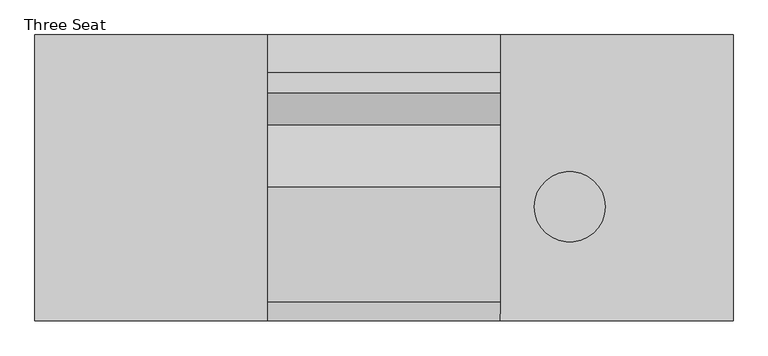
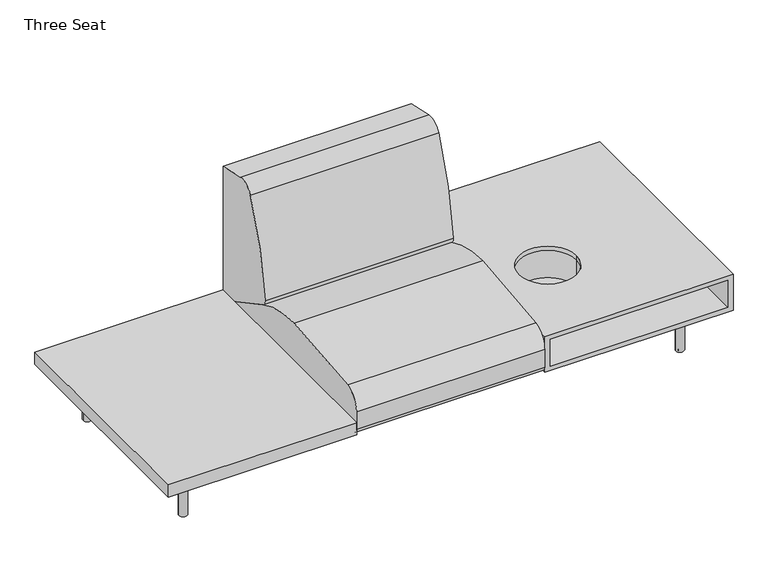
"""IFC4 building model written with IfcOpenShell, lengths in millimetres: furniture geometry, Coalesse_AM_Seating_LoungeChair_Sistema_LegBase_ThreeSeat : Three Seat."""

from ifc_helpers import new_model, si_unit, point, frame, frame_2d, origin, origin_with_axes, place, context, project, spatial, polyline, circle_curve, trimmed, segment, composite_curve, outline, extrude, source, transform, mapped, element, save
from ifc_brep_helpers import plane_surface, cylinder_surface, revolved_surface, advanced_brep


def three_seat_e902c8a6(model_context):
    return source(origin(), model_context, "Body", "SolidModel", [
        extrude(outline(polyline([(374.4965227, 459.4795619), (374.4965227, -461.2704381), (-374.8034773, -461.2704381), (-374.8034773, 459.4795619), (374.4965227, 459.4795619)])), frame((0.0, 0.0, 204.47), z_axis=(0.0, 0.0, 1.0), x_axis=(1.0, 0.0, 0.0)), (0.0, 0.0, 1.0), 51.0294654),
        extrude(outline(composite_curve([segment(polyline([(459.4795619, 775.8234697), (459.4795619, 228.1929806)]), True, "CONTINUOUS"), segment(trimmed(circle_curve(frame_2d((191.495971, 228.1929806)), 267.983591), [point((459.4795619, 228.1929806))], [point((458.9860775, 211.937276))], False, "CARTESIAN"), True, "CONTINUOUS"), segment(polyline([(458.9860775, 211.937276), (183.8457951, 360.6719742)]), True, "CONTINUOUS"), segment(trimmed(circle_curve(frame_2d((195.9245701, 383.0161724)), 25.4), [point((183.8457951, 360.6719742))], [point((170.6161698, 385.1713698))], False, "CARTESIAN"), True, "CONTINUOUS"), segment(trimmed(circle_curve(frame_2d((1327.5544182, 286.6495247)), 1161.1256023), [point((170.6161698, 385.1713698))], [point((271.1088001, 768.4537592))], False, "CARTESIAN"), True, "CONTINUOUS"), segment(trimmed(circle_curve(frame_2d((326.5730192, 743.158661)), 60.96), [point((271.1088001, 768.4537592))], [point((339.9143278, 802.6408523))], False, "CARTESIAN"), True, "CONTINUOUS"), segment(polyline([(339.9143278, 802.6408523), (459.4795619, 775.8234697)]), True, "CONTINUOUS")], self_intersect=False)), frame((374.4965227, 0.0, 0.0), z_axis=(1.0, 0.0, 0.0), x_axis=(0.0, 1.0, 0.0)), (0.0, 0.0, 1.0), 749.3),
        extrude(outline(composite_curve([segment(trimmed(circle_curve(frame_2d((-438.9184381, 226.822)), 22.352), [point((-438.9184381, 204.47))], [point((-461.2704381, 226.822))], False, "CARTESIAN"), True, "CONTINUOUS"), segment(polyline([(-461.2704381, 226.822), (-461.2704381, 301.4421993)]), True, "CONTINUOUS"), segment(trimmed(circle_curve(frame_2d((-385.0704381, 301.4421993)), 76.2), [point((-461.2704381, 301.4421993))], [point((-398.9277015, 376.3716077))], False, "CARTESIAN"), True, "CONTINUOUS"), segment(trimmed(circle_curve(frame_2d((2.2103559, -1792.6740646)), 2205.8265729), [point((-398.9277015, 376.3716077))], [point((-31.1968175, 412.8995185))], False, "CARTESIAN"), True, "CONTINUOUS"), segment(trimmed(circle_curve(frame_2d((-24.5128424, -28.3829182)), 441.333054), [point((-31.1968175, 412.8995185))], [point((184.5757008, 360.2774035))], False, "CARTESIAN"), True, "CONTINUOUS"), segment(polyline([(184.5757008, 360.2774035), (458.9860775, 211.937276)]), True, "CONTINUOUS"), segment(trimmed(circle_curve(frame_2d((442.3266309, 226.7871991)), 22.3171991), [point((458.9860775, 211.937276))], [point((442.3266309, 204.47))], False, "CARTESIAN"), True, "CONTINUOUS"), segment(polyline([(442.3266309, 204.47), (-438.9184381, 204.47)]), True, "CONTINUOUS")], self_intersect=False)), frame((374.4965227, 0.0, 0.0), z_axis=(1.0, 0.0, 0.0), x_axis=(0.0, 1.0, 0.0)), (0.0, 0.0, 1.0), 749.3),
        advanced_brep(
        [(1475.1391799, -93.7879891, 336.5210652), (1219.2892458, -93.7879891, 336.5210652), (1219.2892458, -93.7879891, 212.4123377), (1475.1391799, -93.7879891, 212.4123377), (1460.8952223, -93.7879891, 336.5210652), (1233.5332034, -93.7879891, 336.5210652), (1233.5332034, -93.7879891, 223.173587), (1233.5332034, -93.7879891, 212.4123377), (1460.8952223, -93.7879891, 212.4123377), (1460.8952223, -93.7879891, 223.173587)],
        [
            (0, 1, circle_curve(frame((1347.2142128, -93.7879891, 336.5210652), z_axis=(0.0, 0.0, -1.0), x_axis=(1.0, 0.0, 0.0)), 127.924967)),
            (1, 2),
            (2, 3, circle_curve(frame((1347.2142128, -93.7879891, 212.4123377), z_axis=(0.0, 0.0, 1.0), x_axis=(1.0, 0.0, 0.0)), 127.924967)),
            (3, 0),
            (1, 0, circle_curve(frame((1347.2142128, -93.7879891, 336.5210652), z_axis=(0.0, 0.0, -1.0), x_axis=(1.0, 0.0, 0.0)), 127.924967)),
            (3, 2, circle_curve(frame((1347.2142128, -93.7879891, 212.4123377), z_axis=(0.0, 0.0, 1.0), x_axis=(1.0, 0.0, 0.0)), 127.924967)),
            (4, 5, circle_curve(frame((1347.2142128, -93.7879891, 336.5210652), z_axis=(0.0, 0.0, 1.0), x_axis=(1.0, 0.0, 0.0)), 113.6810095)),
            (5, 6),
            (6, 7),
            (7, 8, circle_curve(frame((1347.2142128, -93.7879891, 212.4123377), z_axis=(0.0, 0.0, -1.0), x_axis=(1.0, 0.0, 0.0)), 113.6810095)),
            (8, 9),
            (9, 4),
            (5, 4, circle_curve(frame((1347.2142128, -93.7879891, 336.5210652), z_axis=(0.0, 0.0, 1.0), x_axis=(1.0, 0.0, 0.0)), 113.6810095)),
            (8, 7, circle_curve(frame((1347.2142128, -93.7879891, 212.4123377), z_axis=(0.0, 0.0, -1.0), x_axis=(1.0, 0.0, 0.0)), 113.6810095)),
        ],
        [
            cylinder_surface(frame((1347.2142128, -93.7879891, 0.0), z_axis=(0.0, 0.0, 1.0), x_axis=(1.0, 0.0, 0.0)), 127.924967),
            revolved_surface(polyline([(1460.8952223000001, -93.7879891, 212.4123377), (1460.8952223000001, -93.7879891, 336.5210652)]), (1347.2142128, -93.7879891, 212.4123377), (0.0, 0.0, -1.0)),
            plane_surface(frame((1460.8952223, -93.7879891, 212.4123377), z_axis=(0.0, 0.0, -1.0), x_axis=(0.0, 1.0, 0.0))),
            plane_surface(frame((1460.8952223, -93.7879891, 336.5210652), z_axis=(0.0, 0.0, 1.0), x_axis=(0.0, -1.0, 0.0))),
        ],
        [
            (0, [[1, 2, 3, 4]]),
            (0, [[5, -4, 6, -2]]),
            (1, [[7, 8, 9, 10, 11, 12]]),
            (1, [[13, -12, -11, 14, -9, -8]]),
            (2, [[-6, -3], [-14, -10]]),
            (3, [[-1, -5], [-7, -13]]),
        ],
    ),
        advanced_brep(
        [(1852.2069667, -461.2704381, 336.5211742), (1145.5928302, -461.2704381, 336.5211742), (1145.5928302, 459.4795619, 336.5211742), (1852.2069667, 459.4795619, 336.5211742), (1460.8952223, -93.7879891, 336.5211742), (1233.5332034, -93.7879891, 336.5211742), (1873.0965227, -461.2704381, 354.7774), (1123.7965227, -461.2704381, 354.7774), (1123.7965227, -461.2704381, 204.47), (1873.0965227, -461.2704381, 204.47), (1852.2069667, -461.2704381, 223.173587), (1145.5928302, -461.2704381, 223.173587), (1873.0965227, 459.4795619, 354.7774), (1873.0965227, 459.4795619, 204.47), (1123.7965227, 459.4795619, 204.47), (1123.7965227, 459.4795619, 354.7774), (1145.5928302, 459.4795619, 223.173587), (1852.2069667, 459.4795619, 223.173587), (1233.5332034, -93.7879891, 354.7774), (1460.8952223, -93.7879891, 354.7774)],
        [
            (0, 1),
            (1, 2),
            (2, 3),
            (3, 0),
            (4, 5, circle_curve(frame((1347.2142128, -93.7879891, 336.5211742), z_axis=(0.0, 0.0, 1.0), x_axis=(1.0, 0.0, 0.0)), 113.6810095)),
            (5, 4, circle_curve(frame((1347.2142128, -93.7879891, 336.5211742), z_axis=(0.0, 0.0, 1.0), x_axis=(1.0, 0.0, 0.0)), 113.6810095)),
            (6, 7),
            (7, 8),
            (8, 9),
            (9, 6),
            (0, 10),
            (10, 11),
            (11, 1),
            (12, 13),
            (13, 14),
            (14, 15),
            (15, 12),
            (2, 16),
            (16, 17),
            (17, 3),
            (6, 12),
            (15, 7),
            (18, 19, circle_curve(frame((1347.2142128, -93.7879891, 354.7774), z_axis=(0.0, 0.0, -1.0), x_axis=(1.0, 0.0, 0.0)), 113.6810095)),
            (19, 18, circle_curve(frame((1347.2142128, -93.7879891, 354.7774), z_axis=(0.0, 0.0, -1.0), x_axis=(1.0, 0.0, 0.0)), 113.6810095)),
            (14, 8),
            (13, 9),
            (11, 16),
            (17, 10),
            (18, 5),
            (4, 19),
        ],
        [
            plane_surface(frame((1145.5928302, -461.2704381, 336.5211742), z_axis=(0.0, 0.0, -1.0), x_axis=(0.0, 1.0, 0.0))),
            plane_surface(frame((1127.3346424, -461.2704381, 354.7774), z_axis=(0.0, -1.0, 0.0), x_axis=(-1.0, 0.0, 0.0))),
            plane_surface(frame((1127.3346424, 459.4795619, 354.7774), z_axis=(0.0, 1.0, 0.0), x_axis=(1.0, 0.0, 0.0))),
            plane_surface(frame((1873.0965227, -461.2704381, 354.7774), z_axis=(0.0, 0.0, 1.0), x_axis=(0.0, 1.0, 0.0))),
            plane_surface(frame((1123.7965227, -461.2704381, 354.7774), z_axis=(-1.0, 0.0, 0.0), x_axis=(0.0, 1.0, 0.0))),
            plane_surface(frame((1123.7965227, -461.2704381, 204.47), z_axis=(0.0, 0.0, -1.0), x_axis=(0.0, 1.0, 0.0))),
            plane_surface(frame((1873.0965227, -461.2704381, 204.47), z_axis=(1.0, 0.0, 0.0), x_axis=(0.0, 1.0, 0.0))),
            plane_surface(frame((1145.5928302, -461.2704381, 223.173587), z_axis=(1.0, 0.0, 0.0), x_axis=(0.0, 1.0, 0.0))),
            plane_surface(frame((1852.2069667, -461.2704381, 336.5211742), z_axis=(-1.0, 0.0, 0.0), x_axis=(0.0, 1.0, 0.0))),
            plane_surface(frame((1852.2069667, -461.2704381, 223.173587), z_axis=(0.0, 0.0, 1.0), x_axis=(0.0, 1.0, 0.0))),
            revolved_surface(polyline([(1460.8952223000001, -93.7879891, 336.5211742), (1460.8952223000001, -93.7879891, 354.7774)]), (1347.2142128, -93.7879891, 354.7774), (0.0, 0.0, -1.0)),
        ],
        [
            (0, [[1, 2, 3, 4], [5, 6]]),
            (1, [[7, 8, 9, 10], [11, 12, 13, -1]]),
            (2, [[14, 15, 16, 17], [-3, 18, 19, 20]]),
            (3, [[-7, 21, -17, 22], [23, 24]]),
            (4, [[-8, -22, -16, 25]]),
            (5, [[-9, -25, -15, 26]]),
            (6, [[-10, -26, -14, -21]]),
            (7, [[-13, 27, -18, -2]]),
            (8, [[-11, -4, -20, 28]]),
            (9, [[-12, -28, -19, -27]]),
            (10, [[29, -5, 30, -23]]),
            (10, [[-29, -24, -30, -6]]),
        ],
    ),
        extrude(outline(composite_curve([segment(trimmed(circle_curve(frame_2d((1738.4765227, 335.9943389)), 6.096), [point((1744.5725227, 335.9943389))], [point((1732.3805227, 335.9943389))], False, "CARTESIAN"), True, "CONTINUOUS"), segment(trimmed(circle_curve(frame_2d((1738.4765227, 335.9943389)), 6.096), [point((1732.3805227, 335.9943389))], [point((1744.5725227, 335.9943389))], False, "CARTESIAN"), True, "CONTINUOUS")], self_intersect=False)), origin_with_axes(), (0.0, 0.0, 1.0), 4.3662291),
        extrude(outline(composite_curve([segment(trimmed(circle_curve(frame_2d((1738.4765227, -327.2630889)), 6.096), [point((1744.5725227, -327.2630889))], [point((1732.3805227, -327.2630889))], False, "CARTESIAN"), True, "CONTINUOUS"), segment(trimmed(circle_curve(frame_2d((1738.4765227, -327.2630889)), 6.096), [point((1732.3805227, -327.2630889))], [point((1744.5725227, -327.2630889))], False, "CARTESIAN"), True, "CONTINUOUS")], self_intersect=False)), origin_with_axes(), (0.0, 0.0, 1.0), 4.3662291),
        extrude(outline(composite_curve([segment(polyline([(157.0399209, 1751.056375), (201.7356243, 1751.056375)]), True, "CONTINUOUS"), segment(trimmed(circle_curve(frame_2d((201.7356243, 1748.008375)), 3.048), [point((201.7356243, 1751.056375))], [point((204.7836243, 1748.008375))], False, "CARTESIAN"), True, "CONTINUOUS"), segment(polyline([(204.7836243, 1748.008375), (204.7836243, 1728.666199)]), True, "CONTINUOUS"), segment(trimmed(circle_curve(frame_2d((201.7356243, 1728.666199)), 3.048), [point((204.7836243, 1728.666199))], [point((201.7356243, 1725.618199))], False, "CARTESIAN"), True, "CONTINUOUS"), segment(polyline([(201.7356243, 1725.618199), (157.1249936, 1725.618199)]), True, "CONTINUOUS"), segment(trimmed(circle_curve(frame_2d((157.1249936, 1728.7512718)), 3.1330728), [point((157.1249936, 1725.618199))], [point((153.9919209, 1728.7512718))], False, "CARTESIAN"), True, "CONTINUOUS"), segment(polyline([(153.9919209, 1728.7512718), (153.9919209, 1748.008375)]), True, "CONTINUOUS"), segment(trimmed(circle_curve(frame_2d((157.0399209, 1748.008375)), 3.048), [point((153.9919209, 1748.008375))], [point((157.0399209, 1751.056375))], False, "CARTESIAN"), True, "CONTINUOUS")], self_intersect=False)), frame((0.0, 222.3519802, 0.0), z_axis=(0.0, 1.0, 0.0), x_axis=(0.0, 0.0, 1.0)), (0.0, 0.0, 1.0), 92.6273161),
        extrude(outline(composite_curve([segment(polyline([(157.0399209, 1751.056375), (201.7356243, 1751.056375)]), True, "CONTINUOUS"), segment(trimmed(circle_curve(frame_2d((201.7356243, 1748.008375)), 3.048), [point((201.7356243, 1751.056375))], [point((204.7836243, 1748.008375))], False, "CARTESIAN"), True, "CONTINUOUS"), segment(polyline([(204.7836243, 1748.008375), (204.7836243, 1728.666199)]), True, "CONTINUOUS"), segment(trimmed(circle_curve(frame_2d((201.7356243, 1728.666199)), 3.048), [point((204.7836243, 1728.666199))], [point((201.7356243, 1725.618199))], False, "CARTESIAN"), True, "CONTINUOUS"), segment(polyline([(201.7356243, 1725.618199), (157.1249936, 1725.618199)]), True, "CONTINUOUS"), segment(trimmed(circle_curve(frame_2d((157.1249936, 1728.7512718)), 3.1330728), [point((157.1249936, 1725.618199))], [point((153.9919209, 1728.7512718))], False, "CARTESIAN"), True, "CONTINUOUS"), segment(polyline([(153.9919209, 1728.7512718), (153.9919209, 1748.008375)]), True, "CONTINUOUS"), segment(trimmed(circle_curve(frame_2d((157.0399209, 1748.008375)), 3.048), [point((153.9919209, 1748.008375))], [point((157.0399209, 1751.056375))], False, "CARTESIAN"), True, "CONTINUOUS")], self_intersect=False)), frame((0.0, -314.9792963, 0.0), z_axis=(0.0, 1.0, 0.0), x_axis=(0.0, 0.0, 1.0)), (0.0, 0.0, 1.0), 92.6273161),
        extrude(outline(composite_curve([segment(trimmed(circle_curve(frame_2d((176.3356606, 1715.8259944)), 3.048), [point((179.3836606, 1715.8259944))], [point((176.3356606, 1712.7779944))], False, "CARTESIAN"), True, "CONTINUOUS"), segment(polyline([(176.3356606, 1712.7779944), (157.0399209, 1712.7779944)]), True, "CONTINUOUS"), segment(trimmed(circle_curve(frame_2d((157.0399209, 1715.8259944)), 3.048), [point((157.0399209, 1712.7779944))], [point((153.9919209, 1715.8259944))], False, "CARTESIAN"), True, "CONTINUOUS"), segment(polyline([(153.9919209, 1715.8259944), (153.9919209, 1760.5135501)]), True, "CONTINUOUS"), segment(trimmed(circle_curve(frame_2d((157.056462, 1760.5135501)), 3.0645412), [point((153.9919209, 1760.5135501))], [point((157.056462, 1763.5780913))], False, "CARTESIAN"), True, "CONTINUOUS"), segment(polyline([(157.056462, 1763.5780913), (176.3356606, 1763.5780913)]), True, "CONTINUOUS"), segment(trimmed(circle_curve(frame_2d((176.3356606, 1760.5300913)), 3.048), [point((176.3356606, 1763.5780913))], [point((179.3836606, 1760.5300913))], False, "CARTESIAN"), True, "CONTINUOUS"), segment(polyline([(179.3836606, 1760.5300913), (179.3836606, 1715.8259944)]), True, "CONTINUOUS")], self_intersect=False)), frame((0.0, -222.3519802, 0.0), z_axis=(0.0, 1.0, 0.0), x_axis=(0.0, 0.0, 1.0)), (0.0, 0.0, 1.0), 444.7039604),
        extrude(outline(composite_curve([segment(trimmed(circle_curve(frame_2d((1738.4765227, 332.3095741)), 16.51), [point((1754.9865227, 332.3095741))], [point((1721.9665227, 332.3095741))], False, "CARTESIAN"), True, "CONTINUOUS"), segment(trimmed(circle_curve(frame_2d((1738.4765227, 332.3095741)), 16.51), [point((1721.9665227, 332.3095741))], [point((1754.9865227, 332.3095741))], False, "CARTESIAN"), True, "CONTINUOUS")], self_intersect=False)), frame((0.0, 0.0, 4.3662291), z_axis=(0.0, 0.0, 1.0), x_axis=(1.0, 0.0, 0.0)), (0.0, 0.0, 1.0), 200.1037709),
        extrude(outline(composite_curve([segment(trimmed(circle_curve(frame_2d((1738.0796477, -327.5470741)), 16.51), [point((1754.5896477, -327.5470741))], [point((1721.5696477, -327.5470741))], False, "CARTESIAN"), True, "CONTINUOUS"), segment(trimmed(circle_curve(frame_2d((1738.0796477, -327.5470741)), 16.51), [point((1721.5696477, -327.5470741))], [point((1754.5896477, -327.5470741))], False, "CARTESIAN"), True, "CONTINUOUS")], self_intersect=False)), frame((0.0, 0.0, 4.3662291), z_axis=(0.0, 0.0, 1.0), x_axis=(1.0, 0.0, 0.0)), (0.0, 0.0, 1.0), 200.1037709),
        extrude(outline(composite_curve([segment(trimmed(circle_curve(frame_2d((-240.1834773, 335.9943389)), 6.096), [point((-246.2794773, 335.9943389))], [point((-234.0874773, 335.9943389))], False, "CARTESIAN"), True, "CONTINUOUS"), segment(trimmed(circle_curve(frame_2d((-240.1834773, 335.9943389)), 6.096), [point((-234.0874773, 335.9943389))], [point((-246.2794773, 335.9943389))], False, "CARTESIAN"), True, "CONTINUOUS")], self_intersect=False)), origin_with_axes(), (0.0, 0.0, 1.0), 4.3662291),
        extrude(outline(composite_curve([segment(trimmed(circle_curve(frame_2d((-240.1834773, -327.2630889)), 6.096), [point((-246.2794773, -327.2630889))], [point((-234.0874773, -327.2630889))], False, "CARTESIAN"), True, "CONTINUOUS"), segment(trimmed(circle_curve(frame_2d((-240.1834773, -327.2630889)), 6.096), [point((-234.0874773, -327.2630889))], [point((-246.2794773, -327.2630889))], False, "CARTESIAN"), True, "CONTINUOUS")], self_intersect=False)), origin_with_axes(), (0.0, 0.0, 1.0), 4.3662291),
        extrude(outline(composite_curve([segment(trimmed(circle_curve(frame_2d((157.0399209, -249.7153296)), 3.048), [point((157.0399209, -252.7633296))], [point((153.9919209, -249.7153296))], False, "CARTESIAN"), True, "CONTINUOUS"), segment(polyline([(153.9919209, -249.7153296), (153.9919209, -230.4582264)]), True, "CONTINUOUS"), segment(trimmed(circle_curve(frame_2d((157.1249936, -230.4582264)), 3.1330728), [point((153.9919209, -230.4582264))], [point((157.1249936, -227.3251537))], False, "CARTESIAN"), True, "CONTINUOUS"), segment(polyline([(157.1249936, -227.3251537), (201.7356243, -227.3251537)]), True, "CONTINUOUS"), segment(trimmed(circle_curve(frame_2d((201.7356243, -230.3731537)), 3.048), [point((201.7356243, -227.3251537))], [point((204.7836243, -230.3731537))], False, "CARTESIAN"), True, "CONTINUOUS"), segment(polyline([(204.7836243, -230.3731537), (204.7836243, -249.7153296)]), True, "CONTINUOUS"), segment(trimmed(circle_curve(frame_2d((201.7356243, -249.7153296)), 3.048), [point((204.7836243, -249.7153296))], [point((201.7356243, -252.7633296))], False, "CARTESIAN"), True, "CONTINUOUS"), segment(polyline([(201.7356243, -252.7633296), (157.0399209, -252.7633296)]), True, "CONTINUOUS")], self_intersect=False)), frame((0.0, 222.3519802, 0.0), z_axis=(0.0, 1.0, 0.0), x_axis=(0.0, 0.0, 1.0)), (0.0, 0.0, 1.0), 92.6273161),
        extrude(outline(composite_curve([segment(trimmed(circle_curve(frame_2d((157.0399209, -249.7153296)), 3.048), [point((157.0399209, -252.7633296))], [point((153.9919209, -249.7153296))], False, "CARTESIAN"), True, "CONTINUOUS"), segment(polyline([(153.9919209, -249.7153296), (153.9919209, -230.4582264)]), True, "CONTINUOUS"), segment(trimmed(circle_curve(frame_2d((157.1249936, -230.4582264)), 3.1330728), [point((153.9919209, -230.4582264))], [point((157.1249936, -227.3251537))], False, "CARTESIAN"), True, "CONTINUOUS"), segment(polyline([(157.1249936, -227.3251537), (201.7356243, -227.3251537)]), True, "CONTINUOUS"), segment(trimmed(circle_curve(frame_2d((201.7356243, -230.3731537)), 3.048), [point((201.7356243, -227.3251537))], [point((204.7836243, -230.3731537))], False, "CARTESIAN"), True, "CONTINUOUS"), segment(polyline([(204.7836243, -230.3731537), (204.7836243, -249.7153296)]), True, "CONTINUOUS"), segment(trimmed(circle_curve(frame_2d((201.7356243, -249.7153296)), 3.048), [point((204.7836243, -249.7153296))], [point((201.7356243, -252.7633296))], False, "CARTESIAN"), True, "CONTINUOUS"), segment(polyline([(201.7356243, -252.7633296), (157.0399209, -252.7633296)]), True, "CONTINUOUS")], self_intersect=False)), frame((0.0, -314.9792963, 0.0), z_axis=(0.0, 1.0, 0.0), x_axis=(0.0, 0.0, 1.0)), (0.0, 0.0, 1.0), 92.6273161),
        extrude(outline(composite_curve([segment(polyline([(179.3836606, -217.532949), (179.3836606, -262.2370459)]), True, "CONTINUOUS"), segment(trimmed(circle_curve(frame_2d((176.3356606, -262.2370459)), 3.048), [point((179.3836606, -262.2370459))], [point((176.3356606, -265.2850459))], False, "CARTESIAN"), True, "CONTINUOUS"), segment(polyline([(176.3356606, -265.2850459), (157.056462, -265.2850459)]), True, "CONTINUOUS"), segment(trimmed(circle_curve(frame_2d((157.056462, -262.2205047)), 3.0645412), [point((157.056462, -265.2850459))], [point((153.9919209, -262.2205047))], False, "CARTESIAN"), True, "CONTINUOUS"), segment(polyline([(153.9919209, -262.2205047), (153.9919209, -217.532949)]), True, "CONTINUOUS"), segment(trimmed(circle_curve(frame_2d((157.0399209, -217.532949)), 3.048), [point((153.9919209, -217.532949))], [point((157.0399209, -214.484949))], False, "CARTESIAN"), True, "CONTINUOUS"), segment(polyline([(157.0399209, -214.484949), (176.3356606, -214.484949)]), True, "CONTINUOUS"), segment(trimmed(circle_curve(frame_2d((176.3356606, -217.532949)), 3.048), [point((176.3356606, -214.484949))], [point((179.3836606, -217.532949))], False, "CARTESIAN"), True, "CONTINUOUS")], self_intersect=False)), frame((0.0, -222.3519802, 0.0), z_axis=(0.0, 1.0, 0.0), x_axis=(0.0, 0.0, 1.0)), (0.0, 0.0, 1.0), 444.7039604),
        extrude(outline(composite_curve([segment(trimmed(circle_curve(frame_2d((-240.1834773, 332.3095741)), 16.51), [point((-256.6934773, 332.3095741))], [point((-223.6734773, 332.3095741))], False, "CARTESIAN"), True, "CONTINUOUS"), segment(trimmed(circle_curve(frame_2d((-240.1834773, 332.3095741)), 16.51), [point((-223.6734773, 332.3095741))], [point((-256.6934773, 332.3095741))], False, "CARTESIAN"), True, "CONTINUOUS")], self_intersect=False)), frame((0.0, 0.0, 4.3662291), z_axis=(0.0, 0.0, 1.0), x_axis=(1.0, 0.0, 0.0)), (0.0, 0.0, 1.0), 200.1037709),
        extrude(outline(composite_curve([segment(trimmed(circle_curve(frame_2d((-239.7866023, -327.5470741)), 16.51), [point((-256.2966023, -327.5470741))], [point((-223.2766023, -327.5470741))], False, "CARTESIAN"), True, "CONTINUOUS"), segment(trimmed(circle_curve(frame_2d((-239.7866023, -327.5470741)), 16.51), [point((-223.2766023, -327.5470741))], [point((-256.2966023, -327.5470741))], False, "CARTESIAN"), True, "CONTINUOUS")], self_intersect=False)), frame((0.0, 0.0, 4.3662291), z_axis=(0.0, 0.0, 1.0), x_axis=(1.0, 0.0, 0.0)), (0.0, 0.0, 1.0), 200.1037709),
    ])


if __name__ == "__main__":
    model = new_model("IFC4")
    model_context = context("Model", 3, world=origin())
    ifc_project = project(units=[si_unit("LENGTHUNIT", "METRE", prefix="MILLI")], contexts=[model_context])
    site = spatial("IfcSite", under=ifc_project)
    building = spatial("IfcBuilding", under=site)
    placement = place(None, origin())
    three_seat_shape = three_seat_e902c8a6(model_context)
    element("IfcFurniture", 1, ObjectType="Coalesse_AM_Seating_LoungeChair_Sistema_LegBase_ThreeSeat : Three Seat", at=placement, inside=building, context=model_context, shape_type="MappedRepresentation", body=[
        mapped(three_seat_shape, transform((0.0, 0.0, 0.0), x_axis=(1.0, 0.0, 0.0), y_axis=(0.0, 1.0, 0.0), z_axis=(0.0, 0.0, 1.0))),
    ])
    save(model, "model.ifc")
